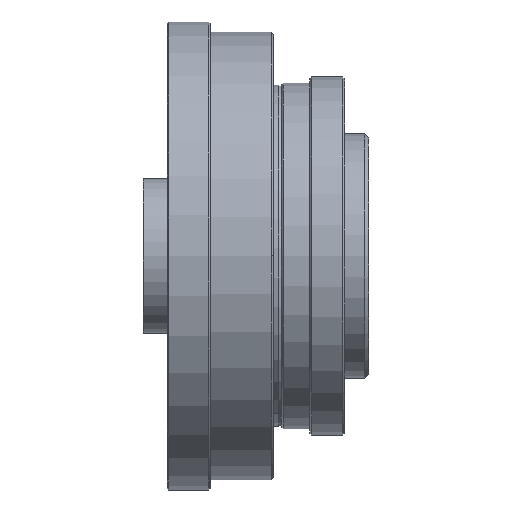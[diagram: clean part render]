
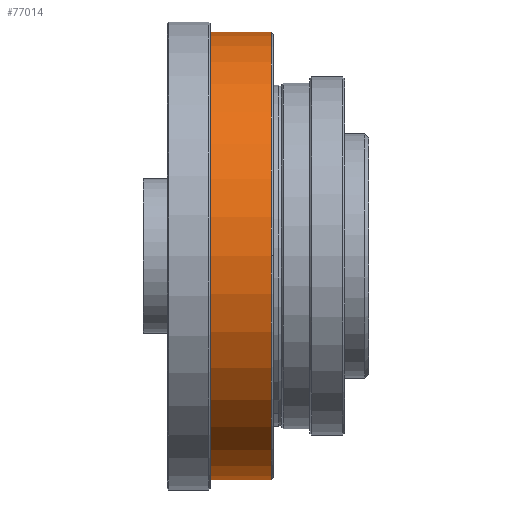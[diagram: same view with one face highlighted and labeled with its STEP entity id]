
A CAD part, top view. The second image highlights one B-rep face of the part: STEP entity #77014.
In plain terms, the highlighted cylindrical face has radius 55 mm (diameter 110 mm), a partial arc.
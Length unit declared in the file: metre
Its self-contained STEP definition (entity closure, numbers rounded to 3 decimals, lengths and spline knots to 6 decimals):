
#723 = AXIS2_PLACEMENT_3D ( 'NONE', #62412, #36278, #61207 ) ;
#1418 = DIRECTION ( 'NONE',  ( -1., 0., 0. ) ) ;
#1640 = CYLINDRICAL_SURFACE ( 'NONE', #42312, 0.055 ) ;
#4008 = CIRCLE ( 'NONE', #75859, 0.055 ) ;
#7237 = LINE ( 'NONE', #13757, #13166 ) ;
#7371 = FACE_OUTER_BOUND ( 'NONE', #67531, .T. ) ;
#7464 = CARTESIAN_POINT ( 'NONE',  ( 0.0315, 0.055, 0. ) ) ;
#7961 = DIRECTION ( 'NONE',  ( 0., -1., 0. ) ) ;
#8405 = VERTEX_POINT ( 'NONE', #31756 ) ;
#13166 = VECTOR ( 'NONE', #27292, 1. ) ;
#13486 = CARTESIAN_POINT ( 'NONE',  ( 0.008033, 0., 0. ) ) ;
#13757 = CARTESIAN_POINT ( 'NONE',  ( 0.008033, 0.055, 0. ) ) ;
#14214 = CARTESIAN_POINT ( 'NONE',  ( 0.0138, 0., 0. ) ) ;
#15649 = ORIENTED_EDGE ( 'NONE', *, *, #61375, .T. ) ;
#15842 = DIRECTION ( 'NONE',  ( 1., 0., 0. ) ) ;
#19461 = VERTEX_POINT ( 'NONE', #69173 ) ;
#19634 = VERTEX_POINT ( 'NONE', #46064 ) ;
#21181 = DIRECTION ( 'NONE',  ( 0., -1., 0. ) ) ;
#21619 = ORIENTED_EDGE ( 'NONE', *, *, #50066, .T. ) ;
#22607 = DIRECTION ( 'NONE',  ( 0., -1., 0. ) ) ;
#25652 = ORIENTED_EDGE ( 'NONE', *, *, #34732, .F. ) ;
#27292 = DIRECTION ( 'NONE',  ( -1., 0., 0. ) ) ;
#31756 = CARTESIAN_POINT ( 'NONE',  ( 0.0138, -0.055, 0. ) ) ;
#32841 = EDGE_CURVE ( 'NONE', #50035, #51212, #45113, .T. ) ;
#34732 = EDGE_CURVE ( 'NONE', #19634, #8405, #77519, .T. ) ;
#36278 = DIRECTION ( 'NONE',  ( 1., 0., 0. ) ) ;
#40859 = CIRCLE ( 'NONE', #42187, 0.055 ) ;
#41481 = ORIENTED_EDGE ( 'NONE', *, *, #62773, .T. ) ;
#42187 = AXIS2_PLACEMENT_3D ( 'NONE', #14214, #15842, #21181 ) ;
#42312 = AXIS2_PLACEMENT_3D ( 'NONE', #13486, #51159, #44573 ) ;
#42688 = CIRCLE ( 'NONE', #66220, 0.055 ) ;
#44573 = DIRECTION ( 'NONE',  ( 0., -1., 0. ) ) ;
#45113 = CIRCLE ( 'NONE', #723, 0.055 ) ;
#45155 = CARTESIAN_POINT ( 'NONE',  ( 0.0315, 0., 0. ) ) ;
#46064 = CARTESIAN_POINT ( 'NONE',  ( 0.0315, -0.055, 0. ) ) ;
#46439 = DIRECTION ( 'NONE',  ( -1., 0., 0. ) ) ;
#50035 = VERTEX_POINT ( 'NONE', #64506 ) ;
#50066 = EDGE_CURVE ( 'NONE', #51212, #8405, #40859, .T. ) ;
#50940 = CARTESIAN_POINT ( 'NONE',  ( 0.0138, 0., 0.055 ) ) ;
#51159 = DIRECTION ( 'NONE',  ( -1., 0., 0. ) ) ;
#51212 = VERTEX_POINT ( 'NONE', #50940 ) ;
#53154 = VECTOR ( 'NONE', #46439, 1. ) ;
#58311 = CARTESIAN_POINT ( 'NONE',  ( 0.008033, -0.055, 0. ) ) ;
#58959 = ORIENTED_EDGE ( 'NONE', *, *, #72428, .T. ) ;
#60509 = ORIENTED_EDGE ( 'NONE', *, *, #32841, .T. ) ;
#61207 = DIRECTION ( 'NONE',  ( 0., -1., 0. ) ) ;
#61375 = EDGE_CURVE ( 'NONE', #79651, #50035, #7237, .T. ) ;
#62412 = CARTESIAN_POINT ( 'NONE',  ( 0.0138, 0., 0. ) ) ;
#62773 = EDGE_CURVE ( 'NONE', #19461, #79651, #4008, .T. ) ;
#64506 = CARTESIAN_POINT ( 'NONE',  ( 0.0138, 0.055, 0. ) ) ;
#66220 = AXIS2_PLACEMENT_3D ( 'NONE', #73670, #78608, #22607 ) ;
#67531 = EDGE_LOOP ( 'NONE', ( #41481, #15649, #60509, #21619, #25652, #58959 ) ) ;
#69173 = CARTESIAN_POINT ( 'NONE',  ( 0.0315, 0., 0.055 ) ) ;
#72428 = EDGE_CURVE ( 'NONE', #19634, #19461, #42688, .T. ) ;
#73670 = CARTESIAN_POINT ( 'NONE',  ( 0.0315, 0., 0. ) ) ;
#75859 = AXIS2_PLACEMENT_3D ( 'NONE', #45155, #1418, #7961 ) ;
#77014 = ADVANCED_FACE ( 'NONE', ( #7371 ), #1640, .T. ) ;
#77519 = LINE ( 'NONE', #58311, #53154 ) ;
#78608 = DIRECTION ( 'NONE',  ( -1., 0., 0. ) ) ;
#79651 = VERTEX_POINT ( 'NONE', #7464 ) ;
